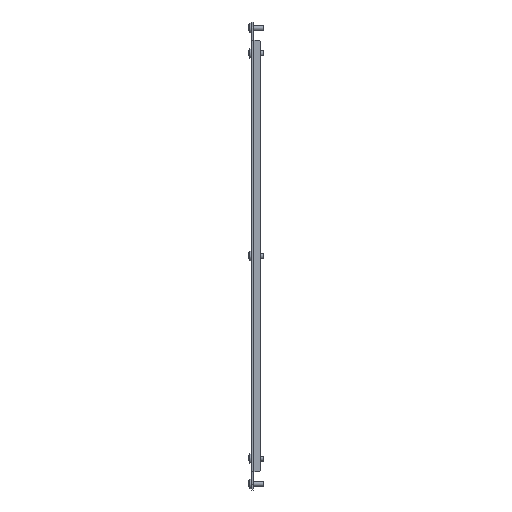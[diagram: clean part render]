
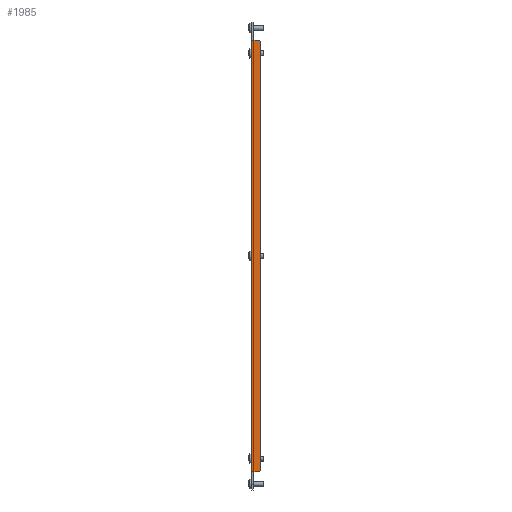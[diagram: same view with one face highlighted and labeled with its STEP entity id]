
A CAD part, left-side view. The second image highlights one B-rep face of the part: STEP entity #1985.
In plain terms, the highlighted planar face has unit normal (-1, 0, 0) as drawn and (1, 0, 0) by its records, which use the part's own axes.
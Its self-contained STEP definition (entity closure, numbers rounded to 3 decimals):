
#3 = DIRECTION ( 'NONE',  ( 0., 1., 0. ) ) ;
#18 = AXIS2_PLACEMENT_3D ( 'NONE', #2844, #738, #479 ) ;
#63 = CARTESIAN_POINT ( 'NONE',  ( 234., -213., 0. ) ) ;
#133 = VECTOR ( 'NONE', #1966, 1000. ) ;
#241 = CARTESIAN_POINT ( 'NONE',  ( 234., 213., -8. ) ) ;
#268 = CARTESIAN_POINT ( 'NONE',  ( 234., 0., 0. ) ) ;
#292 = CARTESIAN_POINT ( 'NONE',  ( 234., -213., 0. ) ) ;
#298 = VECTOR ( 'NONE', #2695, 1000. ) ;
#331 = ORIENTED_EDGE ( 'NONE', *, *, #1439, .F. ) ;
#427 = EDGE_CURVE ( 'NONE', #1841, #662, #2212, .T. ) ;
#433 = ORIENTED_EDGE ( 'NONE', *, *, #1535, .T. ) ;
#457 = VECTOR ( 'NONE', #3, 1000. ) ;
#479 = DIRECTION ( 'NONE',  ( 0., 0., 1. ) ) ;
#531 = PLANE ( 'NONE',  #18 ) ;
#567 = CARTESIAN_POINT ( 'NONE',  ( 234., 212., -9. ) ) ;
#578 = CARTESIAN_POINT ( 'NONE',  ( 234., 0., -9. ) ) ;
#606 = LINE ( 'NONE', #578, #457 ) ;
#662 = VERTEX_POINT ( 'NONE', #1556 ) ;
#738 = DIRECTION ( 'NONE',  ( -1., 0., 0. ) ) ;
#777 = EDGE_CURVE ( 'NONE', #2144, #1409, #606, .T. ) ;
#802 = EDGE_CURVE ( 'NONE', #662, #2005, #2905, .T. ) ;
#857 = ORIENTED_EDGE ( 'NONE', *, *, #427, .T. ) ;
#891 = VECTOR ( 'NONE', #1940, 1000. ) ;
#919 = ORIENTED_EDGE ( 'NONE', *, *, #1167, .T. ) ;
#932 = LINE ( 'NONE', #1477, #133 ) ;
#1095 = VERTEX_POINT ( 'NONE', #1414 ) ;
#1137 = VERTEX_POINT ( 'NONE', #2919 ) ;
#1157 = LINE ( 'NONE', #3219, #298 ) ;
#1167 = EDGE_CURVE ( 'NONE', #1137, #1095, #2397, .T. ) ;
#1221 = ORIENTED_EDGE ( 'NONE', *, *, #777, .T. ) ;
#1324 = CARTESIAN_POINT ( 'NONE',  ( 234., -213., 0. ) ) ;
#1340 = EDGE_CURVE ( 'NONE', #1095, #2144, #932, .T. ) ;
#1379 = ORIENTED_EDGE ( 'NONE', *, *, #802, .T. ) ;
#1409 = VERTEX_POINT ( 'NONE', #567 ) ;
#1414 = CARTESIAN_POINT ( 'NONE',  ( 234., -213., -8. ) ) ;
#1439 = EDGE_CURVE ( 'NONE', #1137, #2005, #3364, .T. ) ;
#1477 = CARTESIAN_POINT ( 'NONE',  ( 234., -212., -9. ) ) ;
#1535 = EDGE_CURVE ( 'NONE', #1409, #1823, #2565, .T. ) ;
#1556 = CARTESIAN_POINT ( 'NONE',  ( 234., 213., 0. ) ) ;
#1608 = DIRECTION ( 'NONE',  ( 0., -1., 0. ) ) ;
#1823 = VERTEX_POINT ( 'NONE', #2727 ) ;
#1841 = VERTEX_POINT ( 'NONE', #2001 ) ;
#1867 = VECTOR ( 'NONE', #2848, 1000. ) ;
#1900 = ORIENTED_EDGE ( 'NONE', *, *, #1340, .T. ) ;
#1940 = DIRECTION ( 'NONE',  ( 0., 0., 1. ) ) ;
#1966 = DIRECTION ( 'NONE',  ( 0., 0.707, -0.707 ) ) ;
#1973 = CARTESIAN_POINT ( 'NONE',  ( 234., 213., -2.1 ) ) ;
#1985 = ADVANCED_FACE ( 'NONE', ( #2339 ), #531, .F. ) ;
#2001 = CARTESIAN_POINT ( 'NONE',  ( 234., 213., -2.1 ) ) ;
#2005 = VERTEX_POINT ( 'NONE', #1324 ) ;
#2128 = CARTESIAN_POINT ( 'NONE',  ( 234., -212., -9. ) ) ;
#2137 = VECTOR ( 'NONE', #2948, 1000. ) ;
#2144 = VERTEX_POINT ( 'NONE', #2128 ) ;
#2212 = LINE ( 'NONE', #1973, #891 ) ;
#2339 = FACE_OUTER_BOUND ( 'NONE', #2542, .T. ) ;
#2397 = LINE ( 'NONE', #63, #2137 ) ;
#2542 = EDGE_LOOP ( 'NONE', ( #1221, #433, #2637, #857, #1379, #331, #919, #1900 ) ) ;
#2565 = LINE ( 'NONE', #241, #1867 ) ;
#2632 = VECTOR ( 'NONE', #1608, 1000. ) ;
#2637 = ORIENTED_EDGE ( 'NONE', *, *, #3025, .T. ) ;
#2695 = DIRECTION ( 'NONE',  ( 0., 0., 1. ) ) ;
#2727 = CARTESIAN_POINT ( 'NONE',  ( 234., 213., -8. ) ) ;
#2844 = CARTESIAN_POINT ( 'NONE',  ( 234., 0., 0. ) ) ;
#2848 = DIRECTION ( 'NONE',  ( 0., 0.707, 0.707 ) ) ;
#2896 = DIRECTION ( 'NONE',  ( 0., 0., 1. ) ) ;
#2904 = VECTOR ( 'NONE', #2896, 1000. ) ;
#2905 = LINE ( 'NONE', #268, #2632 ) ;
#2919 = CARTESIAN_POINT ( 'NONE',  ( 234., -213., -2.1 ) ) ;
#2948 = DIRECTION ( 'NONE',  ( 0., 0., -1. ) ) ;
#3025 = EDGE_CURVE ( 'NONE', #1823, #1841, #1157, .T. ) ;
#3219 = CARTESIAN_POINT ( 'NONE',  ( 234., 213., 0. ) ) ;
#3364 = LINE ( 'NONE', #292, #2904 ) ;
